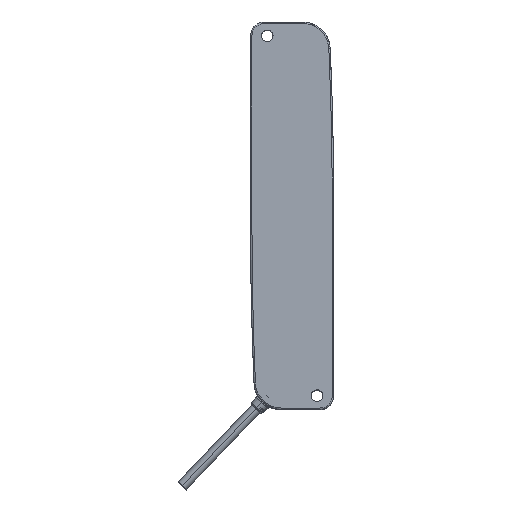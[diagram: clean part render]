
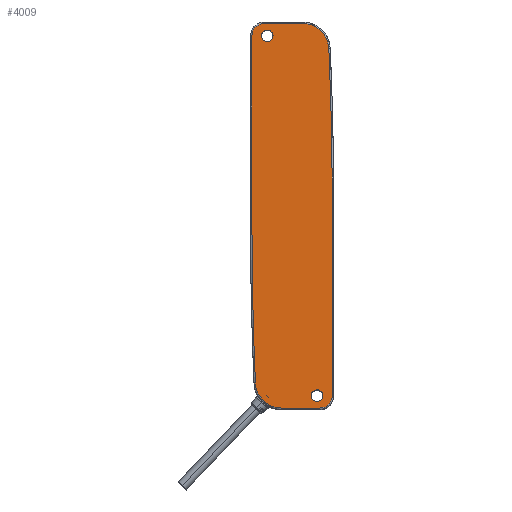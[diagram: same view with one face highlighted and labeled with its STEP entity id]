
A CAD part, top view. The second image highlights one B-rep face of the part: STEP entity #4009.
In plain terms, the highlighted planar face has unit normal (0, 0, 1).
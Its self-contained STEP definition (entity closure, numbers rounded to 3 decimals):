
#80 = DIRECTION ( 'NONE',  ( -1., 0., 0. ) ) ;
#81 = CARTESIAN_POINT ( 'NONE',  ( 110.246, 38.213, 204.627 ) ) ;
#127 = DIRECTION ( 'NONE',  ( 0., 0., 1. ) ) ;
#139 = CARTESIAN_POINT ( 'NONE',  ( 116.611, 163.644, 204.627 ) ) ;
#213 = DIRECTION ( 'NONE',  ( -1., 0., 0. ) ) ;
#239 = DIRECTION ( 'NONE',  ( 0., 0., -1. ) ) ;
#331 = DIRECTION ( 'NONE',  ( 0., 0., -1. ) ) ;
#379 = AXIS2_PLACEMENT_3D ( 'NONE', #6084, #8653, #3634 ) ;
#445 = LINE ( 'NONE', #4252, #5332 ) ;
#481 = ORIENTED_EDGE ( 'NONE', *, *, #4705, .T. ) ;
#583 = ORIENTED_EDGE ( 'NONE', *, *, #6939, .T. ) ;
#620 = CARTESIAN_POINT ( 'NONE',  ( -1081.654, 109.213, 204.627 ) ) ;
#692 = AXIS2_PLACEMENT_3D ( 'NONE', #6261, #7980, #2913 ) ;
#857 = DIRECTION ( 'NONE',  ( 0., 0., -1. ) ) ;
#923 = CARTESIAN_POINT ( 'NONE',  ( 99.572, 43.213, 204.627 ) ) ;
#956 = EDGE_LOOP ( 'NONE', ( #6437, #2660 ) ) ;
#1253 = CARTESIAN_POINT ( 'NONE',  ( 99.572, 33.713, 204.627 ) ) ;
#1328 = VERTEX_POINT ( 'NONE', #8156 ) ;
#1635 = CARTESIAN_POINT ( 'NONE',  ( 96.446, 168.213, 204.627 ) ) ;
#1720 = VERTEX_POINT ( 'NONE', #7027 ) ;
#1789 = CARTESIAN_POINT ( 'NONE',  ( 93.346, 172.713, 204.627 ) ) ;
#1866 = VERTEX_POINT ( 'NONE', #8871 ) ;
#2183 = EDGE_CURVE ( 'NONE', #7891, #9239, #4216, .T. ) ;
#2203 = AXIS2_PLACEMENT_3D ( 'NONE', #923, #7734, #213 ) ;
#2273 = ORIENTED_EDGE ( 'NONE', *, *, #10599, .T. ) ;
#2283 = EDGE_CURVE ( 'NONE', #3825, #5052, #6715, .T. ) ;
#2653 = ORIENTED_EDGE ( 'NONE', *, *, #2283, .T. ) ;
#2660 = ORIENTED_EDGE ( 'NONE', *, *, #4885, .T. ) ;
#2794 = VECTOR ( 'NONE', #5633, 1000. ) ;
#2894 = EDGE_LOOP ( 'NONE', ( #7850, #9379 ) ) ;
#2913 = DIRECTION ( 'NONE',  ( 1., 0., 0. ) ) ;
#3101 = FACE_OUTER_BOUND ( 'NONE', #6188, .T. ) ;
#3365 = CARTESIAN_POINT ( 'NONE',  ( 94.346, 168.213, 204.627 ) ) ;
#3418 = EDGE_CURVE ( 'NONE', #1866, #9290, #7074, .T. ) ;
#3441 = LINE ( 'NONE', #5620, #9654 ) ;
#3505 = CIRCLE ( 'NONE', #9233, 9.5 ) ;
#3634 = DIRECTION ( 'NONE',  ( -1., 0., 0. ) ) ;
#3779 = FACE_BOUND ( 'NONE', #2894, .T. ) ;
#3825 = VERTEX_POINT ( 'NONE', #5774 ) ;
#3827 = AXIS2_PLACEMENT_3D ( 'NONE', #5989, #239, #8693 ) ;
#3919 = EDGE_CURVE ( 'NONE', #5052, #1328, #3505, .T. ) ;
#3979 = LINE ( 'NONE', #7406, #5163 ) ;
#4009 = ADVANCED_FACE ( 'NONE', ( #3101, #8259, #3779 ), #5385, .F. ) ;
#4034 = VERTEX_POINT ( 'NONE', #1253 ) ;
#4103 = CARTESIAN_POINT ( 'NONE',  ( 99.572, 172.713, 204.627 ) ) ;
#4192 = DIRECTION ( 'NONE',  ( 0., -1., 0. ) ) ;
#4216 = CIRCLE ( 'NONE', #3827, 2.1 ) ;
#4252 = CARTESIAN_POINT ( 'NONE',  ( 99.572, 33.713, 204.627 ) ) ;
#4288 = CIRCLE ( 'NONE', #2203, 9.5 ) ;
#4384 = ORIENTED_EDGE ( 'NONE', *, *, #5538, .T. ) ;
#4519 = LINE ( 'NONE', #4103, #2794 ) ;
#4534 = AXIS2_PLACEMENT_3D ( 'NONE', #6839, #127, #7754 ) ;
#4609 = DIRECTION ( 'NONE',  ( 0., 0., 1. ) ) ;
#4614 = VERTEX_POINT ( 'NONE', #9210 ) ;
#4705 = EDGE_CURVE ( 'NONE', #4034, #5425, #445, .T. ) ;
#4718 = VERTEX_POINT ( 'NONE', #81 ) ;
#4721 = CARTESIAN_POINT ( 'NONE',  ( 113.346, 38.213, 204.627 ) ) ;
#4755 = DIRECTION ( 'NONE',  ( -1., 0., 0. ) ) ;
#4767 = CIRCLE ( 'NONE', #4534, 4.5 ) ;
#4885 = EDGE_CURVE ( 'NONE', #4718, #1720, #6624, .T. ) ;
#5052 = VERTEX_POINT ( 'NONE', #139 ) ;
#5163 = VECTOR ( 'NONE', #4192, 1000. ) ;
#5295 = DIRECTION ( 'NONE',  ( 1., 0., 0. ) ) ;
#5332 = VECTOR ( 'NONE', #9428, 1000. ) ;
#5385 = PLANE ( 'NONE',  #7469 ) ;
#5425 = VERTEX_POINT ( 'NONE', #6550 ) ;
#5520 = EDGE_CURVE ( 'NONE', #10227, #3825, #3441, .T. ) ;
#5538 = EDGE_CURVE ( 'NONE', #4614, #1866, #3979, .T. ) ;
#5620 = CARTESIAN_POINT ( 'NONE',  ( 117.846, 43.213, 204.627 ) ) ;
#5633 = DIRECTION ( 'NONE',  ( -1., 0., 0. ) ) ;
#5709 = EDGE_CURVE ( 'NONE', #6288, #4614, #4767, .T. ) ;
#5732 = ORIENTED_EDGE ( 'NONE', *, *, #3418, .T. ) ;
#5766 = EDGE_CURVE ( 'NONE', #1720, #4718, #6723, .T. ) ;
#5774 = CARTESIAN_POINT ( 'NONE',  ( 117.846, 109.213, 204.627 ) ) ;
#5989 = CARTESIAN_POINT ( 'NONE',  ( 94.346, 168.213, 204.627 ) ) ;
#6084 = CARTESIAN_POINT ( 'NONE',  ( 1288.346, 97.213, 204.627 ) ) ;
#6109 = DIRECTION ( 'NONE',  ( 0., 0., 1. ) ) ;
#6188 = EDGE_LOOP ( 'NONE', ( #10079, #4384, #5732, #2273, #481, #583, #8567, #2653, #7748, #8835 ) ) ;
#6259 = DIRECTION ( 'NONE',  ( 1., 0., 0. ) ) ;
#6261 = CARTESIAN_POINT ( 'NONE',  ( 112.346, 38.213, 204.627 ) ) ;
#6288 = VERTEX_POINT ( 'NONE', #1789 ) ;
#6437 = ORIENTED_EDGE ( 'NONE', *, *, #5766, .T. ) ;
#6550 = CARTESIAN_POINT ( 'NONE',  ( 113.346, 33.713, 204.627 ) ) ;
#6624 = CIRCLE ( 'NONE', #692, 2.1 ) ;
#6715 = CIRCLE ( 'NONE', #6982, 1199.5 ) ;
#6723 = CIRCLE ( 'NONE', #6780, 2.1 ) ;
#6780 = AXIS2_PLACEMENT_3D ( 'NONE', #7100, #7024, #5295 ) ;
#6839 = CARTESIAN_POINT ( 'NONE',  ( 93.346, 168.213, 204.627 ) ) ;
#6939 = EDGE_CURVE ( 'NONE', #5425, #10227, #9734, .T. ) ;
#6982 = AXIS2_PLACEMENT_3D ( 'NONE', #620, #9032, #4755 ) ;
#7024 = DIRECTION ( 'NONE',  ( 0., 0., -1. ) ) ;
#7027 = CARTESIAN_POINT ( 'NONE',  ( 114.446, 38.213, 204.627 ) ) ;
#7074 = CIRCLE ( 'NONE', #379, 1199.5 ) ;
#7100 = CARTESIAN_POINT ( 'NONE',  ( 112.346, 38.213, 204.627 ) ) ;
#7406 = CARTESIAN_POINT ( 'NONE',  ( 88.846, 43.213, 204.627 ) ) ;
#7469 = AXIS2_PLACEMENT_3D ( 'NONE', #7977, #331, #6259 ) ;
#7734 = DIRECTION ( 'NONE',  ( 0., 0., 1. ) ) ;
#7748 = ORIENTED_EDGE ( 'NONE', *, *, #3919, .T. ) ;
#7754 = DIRECTION ( 'NONE',  ( -1., 0., 0. ) ) ;
#7850 = ORIENTED_EDGE ( 'NONE', *, *, #7851, .T. ) ;
#7851 = EDGE_CURVE ( 'NONE', #9239, #7891, #10503, .T. ) ;
#7891 = VERTEX_POINT ( 'NONE', #10944 ) ;
#7977 = CARTESIAN_POINT ( 'NONE',  ( 99.572, 43.213, 204.627 ) ) ;
#7980 = DIRECTION ( 'NONE',  ( 0., 0., -1. ) ) ;
#8001 = DIRECTION ( 'NONE',  ( -1., 0., 0. ) ) ;
#8156 = CARTESIAN_POINT ( 'NONE',  ( 107.12, 172.713, 204.627 ) ) ;
#8259 = FACE_BOUND ( 'NONE', #956, .T. ) ;
#8496 = CARTESIAN_POINT ( 'NONE',  ( 107.12, 163.213, 204.627 ) ) ;
#8567 = ORIENTED_EDGE ( 'NONE', *, *, #5520, .T. ) ;
#8653 = DIRECTION ( 'NONE',  ( 0., 0., 1. ) ) ;
#8693 = DIRECTION ( 'NONE',  ( 1., 0., 0. ) ) ;
#8768 = CARTESIAN_POINT ( 'NONE',  ( 90.082, 42.781, 204.627 ) ) ;
#8797 = AXIS2_PLACEMENT_3D ( 'NONE', #3365, #857, #10072 ) ;
#8835 = ORIENTED_EDGE ( 'NONE', *, *, #9177, .T. ) ;
#8871 = CARTESIAN_POINT ( 'NONE',  ( 88.846, 97.213, 204.627 ) ) ;
#9032 = DIRECTION ( 'NONE',  ( 0., 0., 1. ) ) ;
#9108 = DIRECTION ( 'NONE',  ( 0., 1., 0. ) ) ;
#9177 = EDGE_CURVE ( 'NONE', #1328, #6288, #4519, .T. ) ;
#9210 = CARTESIAN_POINT ( 'NONE',  ( 88.846, 168.213, 204.627 ) ) ;
#9233 = AXIS2_PLACEMENT_3D ( 'NONE', #8496, #6109, #80 ) ;
#9239 = VERTEX_POINT ( 'NONE', #1635 ) ;
#9290 = VERTEX_POINT ( 'NONE', #8768 ) ;
#9310 = CARTESIAN_POINT ( 'NONE',  ( 117.846, 38.213, 204.627 ) ) ;
#9379 = ORIENTED_EDGE ( 'NONE', *, *, #2183, .T. ) ;
#9428 = DIRECTION ( 'NONE',  ( 1., 0., 0. ) ) ;
#9654 = VECTOR ( 'NONE', #9108, 1000. ) ;
#9734 = CIRCLE ( 'NONE', #10815, 4.5 ) ;
#10072 = DIRECTION ( 'NONE',  ( 1., 0., 0. ) ) ;
#10079 = ORIENTED_EDGE ( 'NONE', *, *, #5709, .T. ) ;
#10227 = VERTEX_POINT ( 'NONE', #9310 ) ;
#10503 = CIRCLE ( 'NONE', #8797, 2.1 ) ;
#10599 = EDGE_CURVE ( 'NONE', #9290, #4034, #4288, .T. ) ;
#10815 = AXIS2_PLACEMENT_3D ( 'NONE', #4721, #4609, #8001 ) ;
#10944 = CARTESIAN_POINT ( 'NONE',  ( 92.246, 168.213, 204.627 ) ) ;
